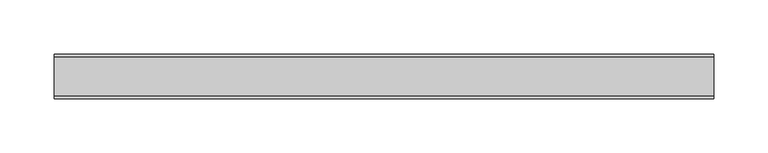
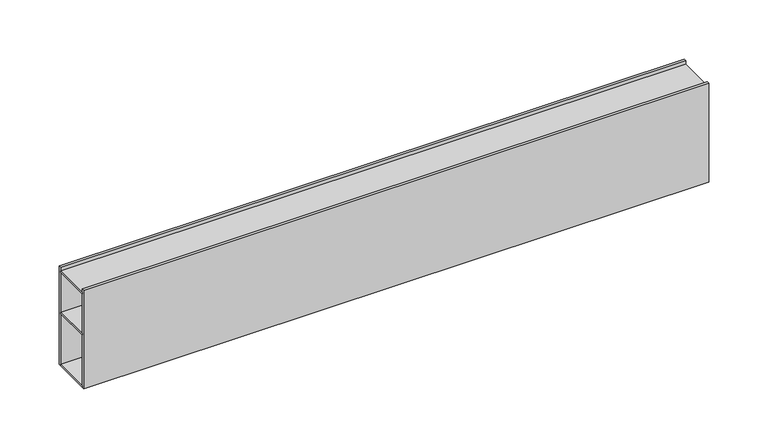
"""IFC4 building model written with IfcOpenShell, lengths in millimetres: light fixture geometry, Lighting-Recessed-Betacalco-Block-Straight : BLKR-DT1-PW01-TR01-SL04-EP01-LP020-CR80-CTA40."""

from ifc_helpers import new_model, si_unit, frame, origin, place, context, project, spatial, polyline, outline, extrude, source, transform, mapped, element, save


def light_fixture_b0f724a0(model_context):
    return source(origin(), model_context, "Body", "SweptSolid", [
        extrude(outline(polyline([(304.8, 18.0975), (304.8, -18.0975), (-304.8, -18.0975), (-304.8, 18.0975), (304.8, 18.0975)])), frame((0.0, 0.0, -5.2904412), z_axis=(0.0, 0.0, 1.0), x_axis=(1.0, 0.0, 0.0)), (0.0, 0.0, 1.0), 1.5875),
        extrude(outline(polyline([(304.8, 18.0975), (304.8, -18.0975), (-304.8, -18.0975), (-304.8, 18.0975), (304.8, 18.0975)])), frame((0.0, 0.0, -47.912087), z_axis=(0.0, 0.0, 1.0), x_axis=(1.0, 0.0, 0.0)), (0.0, 0.0, 1.0), 1.5875),
        extrude(outline(polyline([(304.8, 18.0975), (304.8, -18.0975), (-304.8, -18.0975), (-304.8, 18.0975), (304.8, 18.0975)])), frame((0.0, 0.0, -101.6), z_axis=(0.0, 0.0, 1.0), x_axis=(1.0, 0.0, 0.0)), (0.0, 0.0, 1.0), 1.5875),
        extrude(outline(polyline([(304.8, 20.6375), (304.8, 18.0975), (-304.8, 18.0975), (-304.8, 20.6375), (304.8, 20.6375)])), frame((0.0, 0.0, -101.6), z_axis=(0.0, 0.0, 1.0), x_axis=(1.0, 0.0, 0.0)), (0.0, 0.0, 1.0), 101.6),
        extrude(outline(polyline([(304.8, -18.0975), (304.8, -20.6375), (-304.8, -20.6375), (-304.8, -18.0975), (304.8, -18.0975)])), frame((0.0, 0.0, -101.6), z_axis=(0.0, 0.0, 1.0), x_axis=(1.0, 0.0, 0.0)), (0.0, 0.0, 1.0), 101.6),
    ])


if __name__ == "__main__":
    model = new_model("IFC4")
    model_context = context("Model", 3, world=origin())
    ifc_project = project(units=[si_unit("LENGTHUNIT", "METRE", prefix="MILLI")], contexts=[model_context])
    site = spatial("IfcSite", under=ifc_project)
    building = spatial("IfcBuilding", under=site)
    placement = place(None, origin())
    light_fixture_shape = light_fixture_b0f724a0(model_context)
    element("IfcLightFixture", 1, ObjectType="Lighting-Recessed-Betacalco-Block-Straight : BLKR-DT1-PW01-TR01-SL04-EP01-LP020-CR80-CTA40", at=placement, inside=building, context=model_context, shape_type="MappedRepresentation", body=[
        mapped(light_fixture_shape, transform((0.0, 0.0, 0.0), x_axis=(1.0, 0.0, 0.0), y_axis=(0.0, 1.0, 0.0), z_axis=(0.0, 0.0, 1.0))),
    ])
    save(model, "model.ifc")
